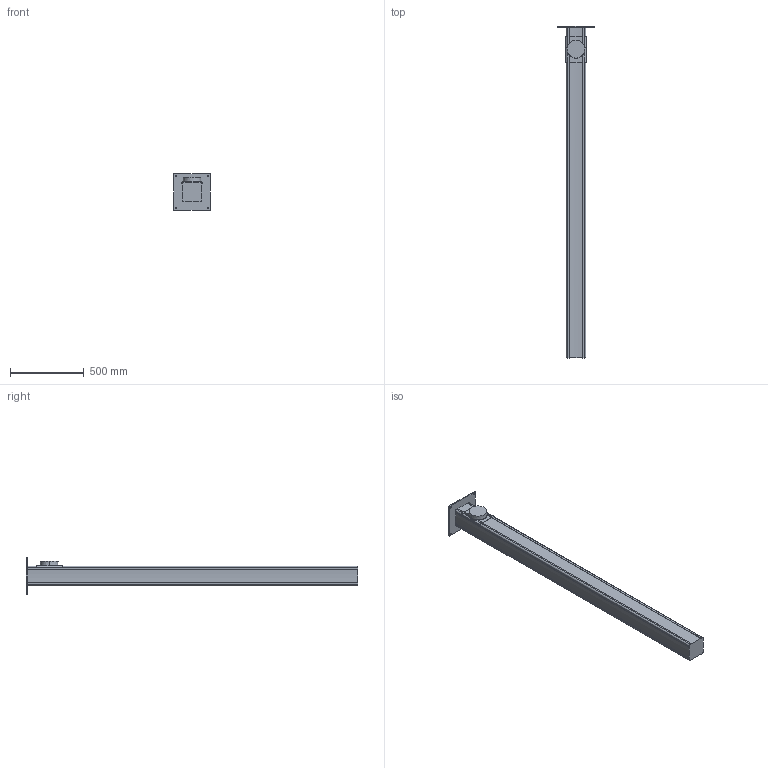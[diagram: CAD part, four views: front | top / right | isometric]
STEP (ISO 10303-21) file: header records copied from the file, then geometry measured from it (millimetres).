
FILE_DESCRIPTION((''),'2;1');
FILE_NAME('MTI2000-125','2019-03-04T08:05:19',('Tomas Bellgran'),(''),'CREO PARAMETRIC BY PTC INC, 2018260','CREO PARAMETRIC BY PTC INC, 2018260','');
FILE_SCHEMA(('AUTOMOTIVE_DESIGN { 1 0 10303 214 1 1 1 1 }'));
Length unit declared in the file: millimetre
Products named in the file (7): 100568_3; 100731_3; G_MTI_SPIGOT_100_3; G_MTI_SPIGOT_100_TPE_2; 101330_3; MTI2000-125_4; MTI2000-125
Assembly tree (6 placements, depth 4):
  MTI2000-125
    MTI2000-125_4
      100568_3
      100731_3
      101330_3
        G_MTI_SPIGOT_100_3
        G_MTI_SPIGOT_100_TPE_2
Bounding box: 245 x 2258 x 245 mm (x, y, z)
Volume: 39493922.6 mm3; surface area: 1431842.8 mm2
Topology: 4 solids, 4 shells, 92 faces, 253 edges, 167 vertices
Faces by surface type: cylinder 52, plane 30, bspline 8, cone 2
Entity records: 13951 total; most frequent: CARTESIAN_POINT 8376, DIRECTION 611, ORIENTED_EDGE 506, PROPERTY_DEFINITION 350, REPRESENTATION 346, PROPERTY_DEFINITION_REPRESENTATION 346, GENERAL_PROPERTY 264, GENERAL_PROPERTY_ASSOCIATION 264
